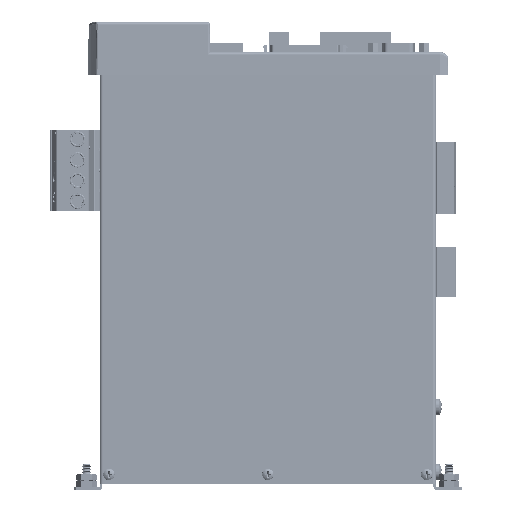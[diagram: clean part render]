
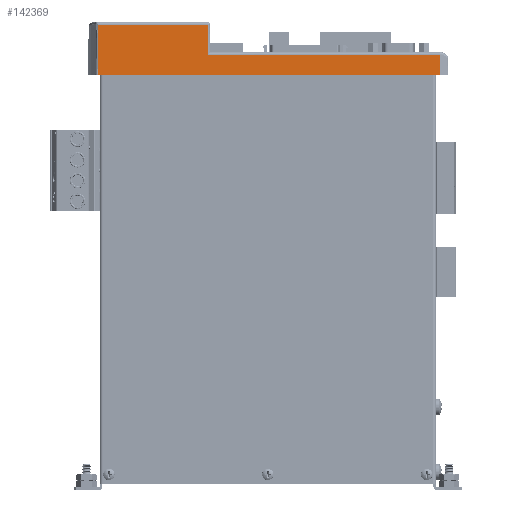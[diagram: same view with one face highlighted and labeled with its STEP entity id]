
A CAD part, left-side view. The second image highlights one B-rep face of the part: STEP entity #142369.
In plain terms, the highlighted planar face has unit normal (-1, 0, 0.009).
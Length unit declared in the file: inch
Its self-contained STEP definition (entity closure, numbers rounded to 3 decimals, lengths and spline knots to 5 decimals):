
#9059 = CARTESIAN_POINT ( 'NONE',  ( 0.00847, 6.59913, 0.97044 ) ) ;
#9247 = CARTESIAN_POINT ( 'NONE',  ( 0.00341, 4.48557, 0.39044 ) ) ;
#10270 = CARTESIAN_POINT ( 'NONE',  ( 0., 6.60595, 0. ) ) ;
#10312 = CARTESIAN_POINT ( 'NONE',  ( 0., 0., 0. ) ) ;
#12404 = CARTESIAN_POINT ( 'NONE',  ( 0.00341, 0.0006, 0.39044 ) ) ;
#13417 = CARTESIAN_POINT ( 'NONE',  ( 0.00847, 4.49063, 0.97044 ) ) ;
#14400 = AXIS2_PLACEMENT_3D ( 'NONE', #41981, #41980, #41979 ) ;
#41979 = DIRECTION ( 'NONE',  ( 0.009, 0., 1. ) ) ;
#41980 = DIRECTION ( 'NONE',  ( -1., 0., 0.009 ) ) ;
#41981 = CARTESIAN_POINT ( 'NONE',  ( 0., 0., 0. ) ) ;
#41982 = PLANE ( 'NONE',  #14400 ) ;
#52988 = FACE_OUTER_BOUND ( 'NONE', #115292, .T. ) ;
#61574 = VECTOR ( 'NONE', #72985, 39.37008 ) ;
#61577 = LINE ( 'NONE', #72988, #61574 ) ;
#61580 = VECTOR ( 'NONE', #73109, 39.37008 ) ;
#61583 = LINE ( 'NONE', #73115, #61580 ) ;
#61591 = VECTOR ( 'NONE', #73128, 39.37008 ) ;
#61594 = LINE ( 'NONE', #73131, #61591 ) ;
#61730 = VECTOR ( 'NONE', #130342, 39.37008 ) ;
#61733 = LINE ( 'NONE', #130344, #61730 ) ;
#61736 = VECTOR ( 'NONE', #130350, 39.37008 ) ;
#61739 = LINE ( 'NONE', #130352, #61736 ) ;
#61747 = VECTOR ( 'NONE', #130363, 39.37008 ) ;
#61750 = LINE ( 'NONE', #130366, #61747 ) ;
#72273 = ORIENTED_EDGE ( 'NONE', *, *, #110630, .T. ) ;
#72275 = ORIENTED_EDGE ( 'NONE', *, *, #110628, .T. ) ;
#72279 = ORIENTED_EDGE ( 'NONE', *, *, #110626, .T. ) ;
#72281 = ORIENTED_EDGE ( 'NONE', *, *, #111792, .T. ) ;
#72284 = ORIENTED_EDGE ( 'NONE', *, *, #111797, .F. ) ;
#72287 = ORIENTED_EDGE ( 'NONE', *, *, #111796, .F. ) ;
#72985 = DIRECTION ( 'NONE',  ( 0., 1., 0. ) ) ;
#72988 = CARTESIAN_POINT ( 'NONE',  ( 0.00847, 0., 0.97044 ) ) ;
#73109 = DIRECTION ( 'NONE',  ( 0.009, 0.009, 1. ) ) ;
#73115 = CARTESIAN_POINT ( 'NONE',  ( 0.00341, 4.48557, 0.39044 ) ) ;
#73128 = DIRECTION ( 'NONE',  ( 0., 1., 0. ) ) ;
#73131 = CARTESIAN_POINT ( 'NONE',  ( 0.00341, 0., 0.39044 ) ) ;
#110626 = EDGE_CURVE ( 'NONE', #175495, #177428, #61594, .T. ) ;
#110628 = EDGE_CURVE ( 'NONE', #177428, #175023, #61583, .T. ) ;
#110630 = EDGE_CURVE ( 'NONE', #175023, #177436, #61577, .T. ) ;
#111792 = EDGE_CURVE ( 'NONE', #177837, #175495, #61750, .T. ) ;
#111796 = EDGE_CURVE ( 'NONE', #177854, #177436, #61739, .T. ) ;
#111797 = EDGE_CURVE ( 'NONE', #177837, #177854, #61733, .T. ) ;
#115292 = EDGE_LOOP ( 'NONE', ( #72287, #72284, #72281, #72279, #72275, #72273 ) ) ;
#130342 = DIRECTION ( 'NONE',  ( 0., 1., 0. ) ) ;
#130344 = CARTESIAN_POINT ( 'NONE',  ( 0., 6.646, 0. ) ) ;
#130350 = DIRECTION ( 'NONE',  ( 0.009, -0.007, 1. ) ) ;
#130352 = CARTESIAN_POINT ( 'NONE',  ( 0.00847, 6.59913, 0.97044 ) ) ;
#130363 = DIRECTION ( 'NONE',  ( 0.009, 0.002, 1. ) ) ;
#130366 = CARTESIAN_POINT ( 'NONE',  ( 0., 0., 0. ) ) ;
#142369 = ADVANCED_FACE ( 'NONE', ( #52988 ), #41982, .T. ) ;
#175023 = VERTEX_POINT ( 'NONE', #13417 ) ;
#175495 = VERTEX_POINT ( 'NONE', #12404 ) ;
#177428 = VERTEX_POINT ( 'NONE', #9247 ) ;
#177436 = VERTEX_POINT ( 'NONE', #9059 ) ;
#177837 = VERTEX_POINT ( 'NONE', #10312 ) ;
#177854 = VERTEX_POINT ( 'NONE', #10270 ) ;
